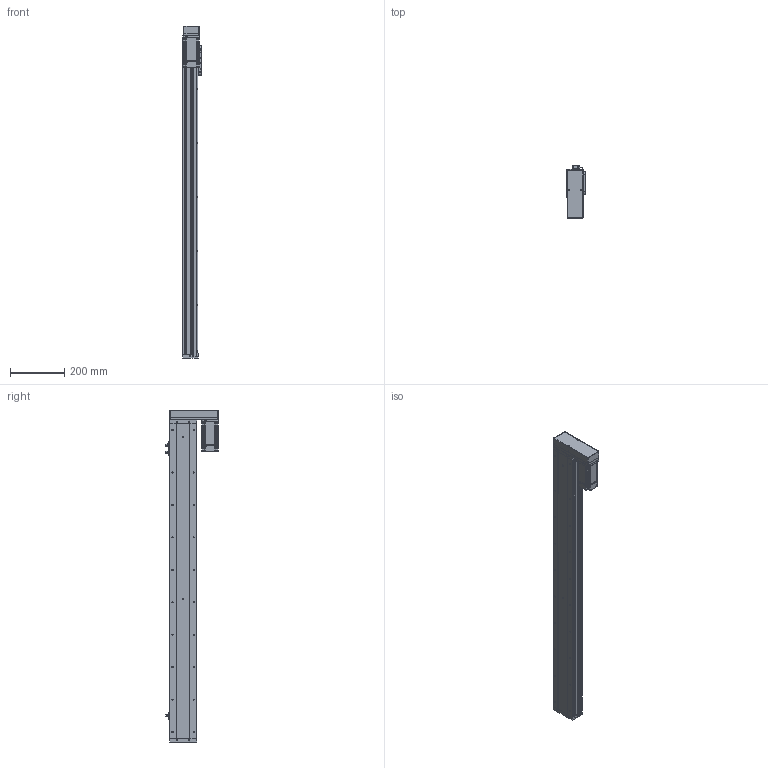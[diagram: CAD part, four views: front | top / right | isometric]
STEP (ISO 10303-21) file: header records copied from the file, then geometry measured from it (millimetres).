
FILE_DESCRIPTION (( 'STEP AP214' ), '1' );
FILE_NAME ('KSD100S-S1000-MR-CR.STEP', '2019-09-03T01:57:36', ( '微软用户' ), ( '微软中国' ), 'SwSTEP 2.0', 'SolidWorks 2014', '' );
FILE_SCHEMA (( 'AUTOMOTIVE_DESIGN' ));
Length unit declared in the file: millimetre
Products named in the file (14): 100遵耜啣1000俴最佪裝; 100宽底板全封闭1000行程丝杆; KSD100S-S1000-MR-CR; MHMD042G1CA_2_03; U倰嫖萇EEㄜSX672; 悵誘欶酘衵殏; 100宽马达安装板连板左右折丝杆; 感应片100宽全封闭; 100宽马达安装板全封闭; 100宽端板全封闭; 100宽滚珠螺姆安装板1防护罩; 100宽滚珠螺姆安装板1; 100遵裔啣揤啣; 100遵裔啣1000俴最
Assembly tree (17 placements, depth 2):
  KSD100S-S1000-MR-CR
    100宽底板全封闭1000行程丝杆
    100遵耜啣1000俴最佪裝  x2
    100遵裔啣1000俴最
    100遵裔啣揤啣  x2
    100宽滚珠螺姆安装板1
    100宽滚珠螺姆安装板1防护罩
    100宽端板全封闭
    100宽马达安装板全封闭
    感应片100宽全封闭
    100宽马达安装板连板左右折丝杆
    悵誘欶酘衵殏
    U倰嫖萇EEㄜSX672  x3
    MHMD042G1CA_2_03
Bounding box: 70 x 193.7 x 1228.5 mm (x, y, z)
Volume: 2429949.2 mm3; surface area: 1082866 mm2
Topology: 16 solids, 17 shells, 1769 faces, 4938 edges, 3126 vertices
Faces by surface type: cylinder 775, plane 703, cone 273, bspline 18
Entity records: 59368 total; most frequent: CARTESIAN_POINT 9392, DIRECTION 8449, ORIENTED_EDGE 7784, EDGE_CURVE 3964, AXIS2_PLACEMENT_3D 3047, VERTEX_POINT 2624, VECTOR 2355, LINE 2355
